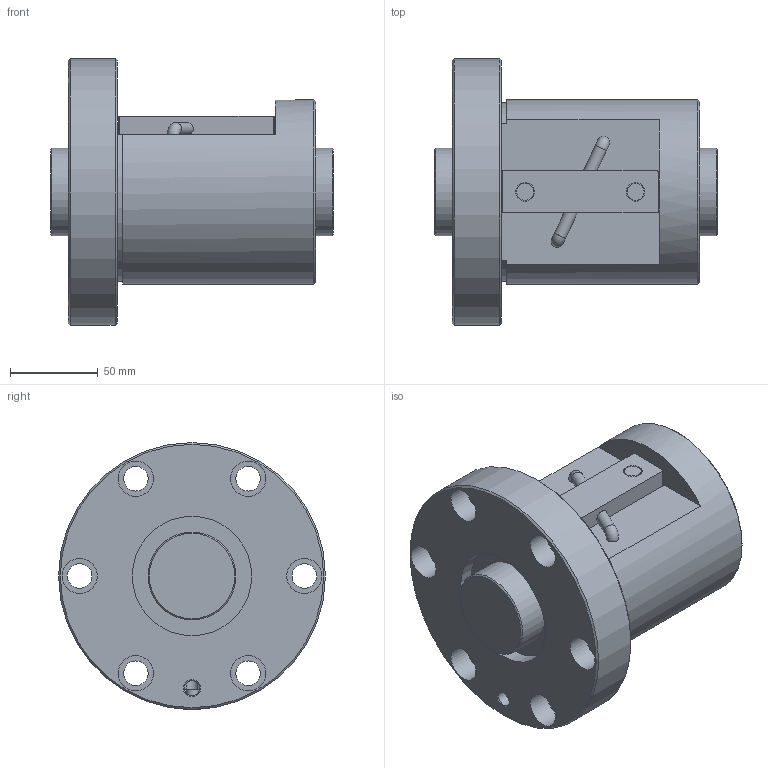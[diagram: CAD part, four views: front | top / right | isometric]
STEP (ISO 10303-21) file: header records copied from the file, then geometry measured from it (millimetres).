
FILE_DESCRIPTION(/* description */ ('STEP AP203'),/* implementation_level */ '2;1');
FILE_NAME(/* name */ 'BNF5020V-2.5RRG1+161LC0_000_rev',/* time_stamp */ '2024-08-06T09:49:50+02:00',/* author */ ('License CC BY-ND 4.0'),/* organization */ ('CADENAS'),/* preprocessor_version */ 'ST-DEVELOPER v19.3',/* originating_system */ 'PARTsolutions',/* authorisation */ ' ');
FILE_SCHEMA (('CONFIG_CONTROL_DESIGN'));
Length unit declared in the file: millimetre
Products named in the file (3): BNF5020V-2.5RRG1+161LC0_000_rev; BNF 5020-2.5RR000 Shaft; BNF 5020-2.5RR Nut
Assembly tree (2 placements, depth 2):
  BNF5020V-2.5RRG1+161LC0_000_rev
    BNF 5020-2.5RR000 Shaft
    BNF 5020-2.5RR Nut
Bounding box: 161 x 152 x 152 mm (x, y, z)
Volume: 1375762.3 mm3; surface area: 148381.3 mm2
Topology: 2 solids, 2 shells, 70 faces, 152 edges, 99 vertices
Faces by surface type: cylinder 33, plane 27, cone 8, torus 2
Full cylindrical faces by diameter (mm): 6.998 x2, 7 x2, 8.566 x1, 9.6 x2, 10.6 x2, 14 x6, 20 x6, 50 x2, 68 x2, 105 x1, 152 x1
Entity records: 1819 total; most frequent: CARTESIAN_POINT 329, DIRECTION 316, ORIENTED_EDGE 210, AXIS2_PLACEMENT_3D 146, EDGE_LOOP 140, FACE_BOUND 140, EDGE_CURVE 105, VERTEX_POINT 89
